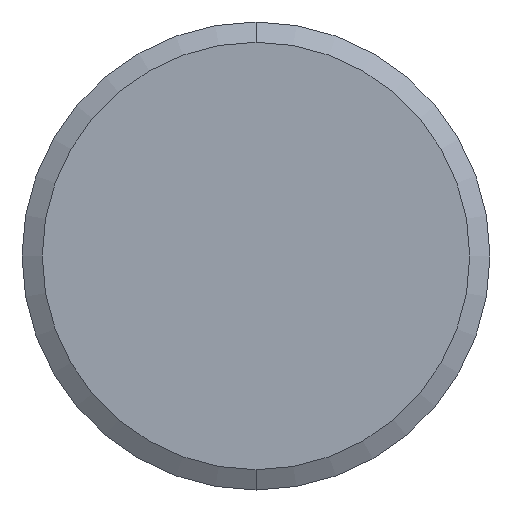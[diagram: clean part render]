
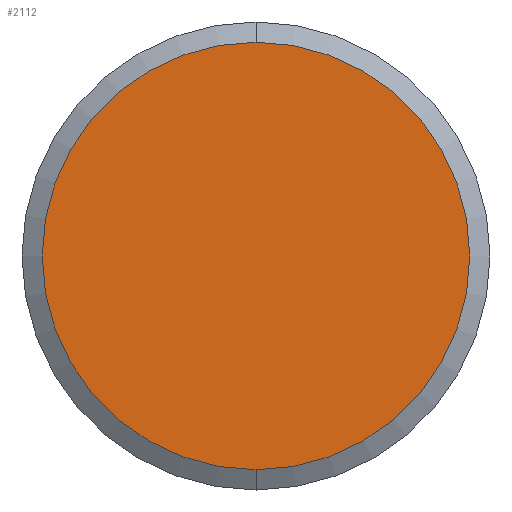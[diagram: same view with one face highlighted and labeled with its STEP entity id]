
A CAD part, front view. The second image highlights one B-rep face of the part: STEP entity #2112.
In plain terms, the highlighted planar face has unit normal (0, -1, 0).
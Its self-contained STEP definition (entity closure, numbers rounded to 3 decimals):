
#27 = VERTEX_POINT ( 'NONE', #355 ) ;
#106 = EDGE_LOOP ( 'NONE', ( #2194, #1095 ) ) ;
#112 = EDGE_CURVE ( 'NONE', #27, #1669, #2254, .T. ) ;
#355 = CARTESIAN_POINT ( 'NONE',  ( 0., 0., -9.134 ) ) ;
#360 = AXIS2_PLACEMENT_3D ( 'NONE', #1207, #1231, #1613 ) ;
#377 = CARTESIAN_POINT ( 'NONE',  ( 0., 0., 9.134 ) ) ;
#393 = DIRECTION ( 'NONE',  ( 0., 0., 1. ) ) ;
#405 = DIRECTION ( 'NONE',  ( 0., 0., 1. ) ) ;
#723 = DIRECTION ( 'NONE',  ( 0., 1., 0. ) ) ;
#948 = CARTESIAN_POINT ( 'NONE',  ( 0., 0., 0. ) ) ;
#1088 = AXIS2_PLACEMENT_3D ( 'NONE', #1110, #1117, #405 ) ;
#1095 = ORIENTED_EDGE ( 'NONE', *, *, #112, .F. ) ;
#1097 = AXIS2_PLACEMENT_3D ( 'NONE', #948, #723, #393 ) ;
#1110 = CARTESIAN_POINT ( 'NONE',  ( 0., 0., 0. ) ) ;
#1117 = DIRECTION ( 'NONE',  ( 0., 1., 0. ) ) ;
#1207 = CARTESIAN_POINT ( 'NONE',  ( 0., 0., 0. ) ) ;
#1222 = EDGE_CURVE ( 'NONE', #1669, #27, #2128, .T. ) ;
#1231 = DIRECTION ( 'NONE',  ( 0., 1., 0. ) ) ;
#1270 = PLANE ( 'NONE',  #1088 ) ;
#1613 = DIRECTION ( 'NONE',  ( 0., 0., 1. ) ) ;
#1669 = VERTEX_POINT ( 'NONE', #377 ) ;
#1798 = FACE_OUTER_BOUND ( 'NONE', #106, .T. ) ;
#2112 = ADVANCED_FACE ( 'NONE', ( #1798 ), #1270, .F. ) ;
#2128 = CIRCLE ( 'NONE', #360, 9.134 ) ;
#2194 = ORIENTED_EDGE ( 'NONE', *, *, #1222, .F. ) ;
#2254 = CIRCLE ( 'NONE', #1097, 9.134 ) ;
